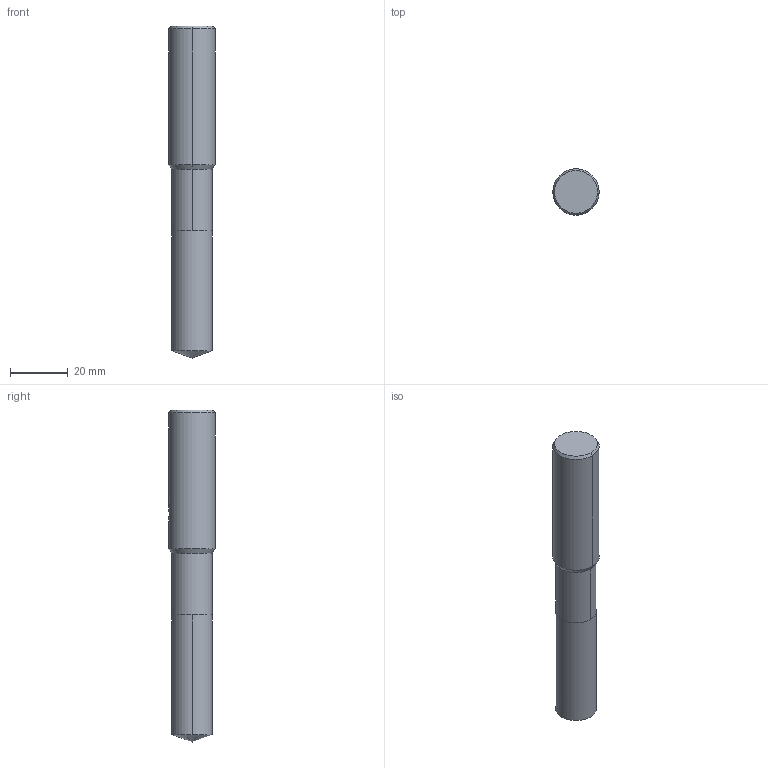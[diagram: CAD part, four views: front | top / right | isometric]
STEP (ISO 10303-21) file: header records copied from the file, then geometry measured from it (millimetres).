
FILE_DESCRIPTION(('no description'),'unknown implementation level');
FILE_NAME('solid8xRE6V03NfJj9bL765swUEugYcI_1.STP',' ',('CIMSOURCE GmbH'),('CADClick - KiM GmbH - www.kimweb.de'),'unknown preprocess','ACIS','unknown authorization');
FILE_SCHEMA(('automotive_design'));
Length unit declared in the file: millimetre
Products named in the file (2): NOCUT; CUT
Bounding box: 16 x 16 x 115 mm (x, y, z)
Volume: 20005.5 mm3; surface area: 5969 mm2
Topology: 2 solids, 2 shells, 28 faces, 67 edges, 41 vertices
Faces by surface type: cylinder 14, plane 8, cone 6
Entity records: 1863 total; most frequent: CARTESIAN_POINT 420, DIRECTION 139, STYLED_ITEM 136, PRESENTATION_STYLE_ASSIGNMENT 136, COLOUR_RGB 136, ORIENTED_EDGE 130, EDGE_CURVE 65, CURVE_STYLE 65
